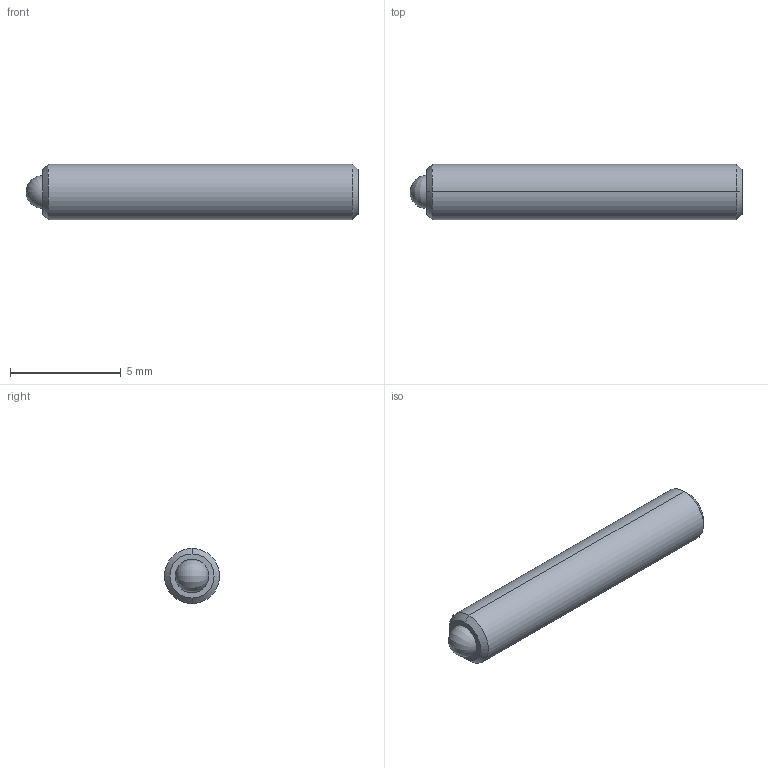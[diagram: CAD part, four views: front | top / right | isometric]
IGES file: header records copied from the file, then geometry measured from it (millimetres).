
Start section: SolidWorks IGES file using analytic representation for surfaces
Global section: file name: C:\Users\workpc\Desktop\KMA Solidworks\TS25-20 Series\TS25-20-15.IGS; native system: SolidWorks 2013; preprocessor: SolidWorks 2013; author: workpc; date: 150429.122517; units: millimetre
Bounding box: 15 x 2.5 x 2.5 mm (x, y, z)
Surface area: 140.5 mm2 (no closed solid volume)
Topology: 0 solids, 0 shells, 20 faces, 172 edges, 168 vertices
Faces by surface type: revolution 10, bspline 10
